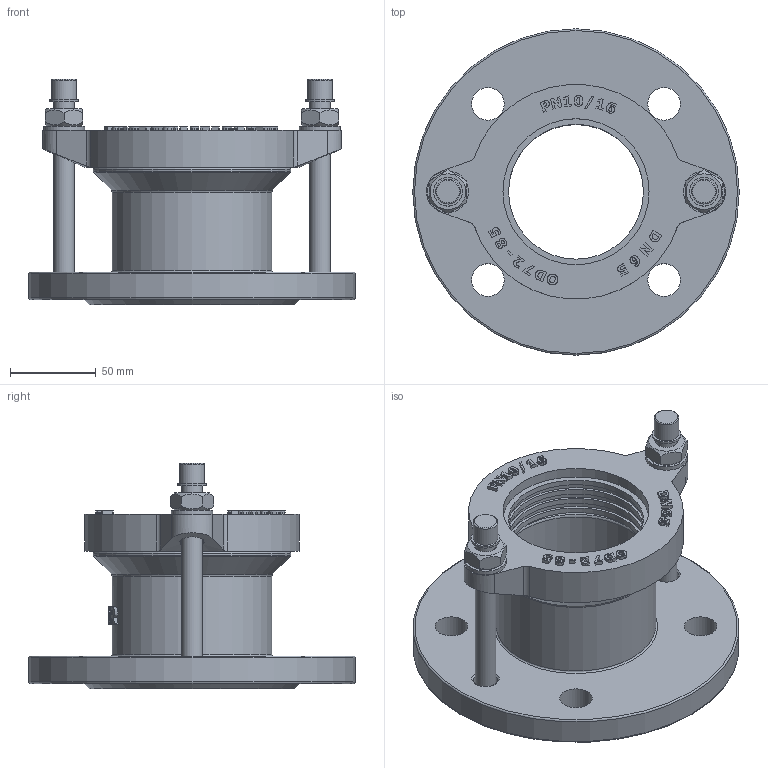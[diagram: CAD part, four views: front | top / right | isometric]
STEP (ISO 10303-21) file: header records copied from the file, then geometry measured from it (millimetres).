
FILE_DESCRIPTION(('STEP AP203'), '1');
FILE_NAME('Ôëàíöåâûé àäàïòåð', '', ('UNSPECIFIED'), ('UNSPECIFIED'), 'C3D Converter', 'C3D Toolkit', '');
FILE_SCHEMA(('CONFIG_CONTROL_DESIGN'));
Length unit declared in the file: millimetre
Assembly tree (11 placements, depth 2):
  (unnamed)
    (unnamed)
    (unnamed)  x2
    (unnamed)  x2
    (unnamed)  x2
    (unnamed)  x2
    (unnamed)
    (unnamed)
Bounding box: 190 x 190 x 131.2 mm (x, y, z)
Volume: 663966.7 mm3; surface area: 183029.1 mm2
Topology: 11 solids, 11 shells, 690 faces, 1782 edges, 1148 vertices
Faces by surface type: extrusion 300, plane 240, cylinder 93, torus 23, cone 18, bspline 8, sphere 8
Full cylindrical faces by diameter (mm): 12 x6, 12.253 x1, 13 x2, 14 x4, 14.4 x2, 16.8 x2, 19 x4, 24 x2, 78.5 x5, 81.75 x3, 85 x2, 89 x1, 92 x1, 93 x1, 115 x1, 117 x2, 190 x1
Entity records: 28321 total; most frequent: CARTESIAN_POINT 9578, ORIENTED_EDGE 3248, DIRECTION 2182, EDGE_CURVE 1624, VERTEX_POINT 1096, VECTOR 1044, B_SPLINE_CURVE_WITH_KNOTS 935, EDGE_LOOP 786
